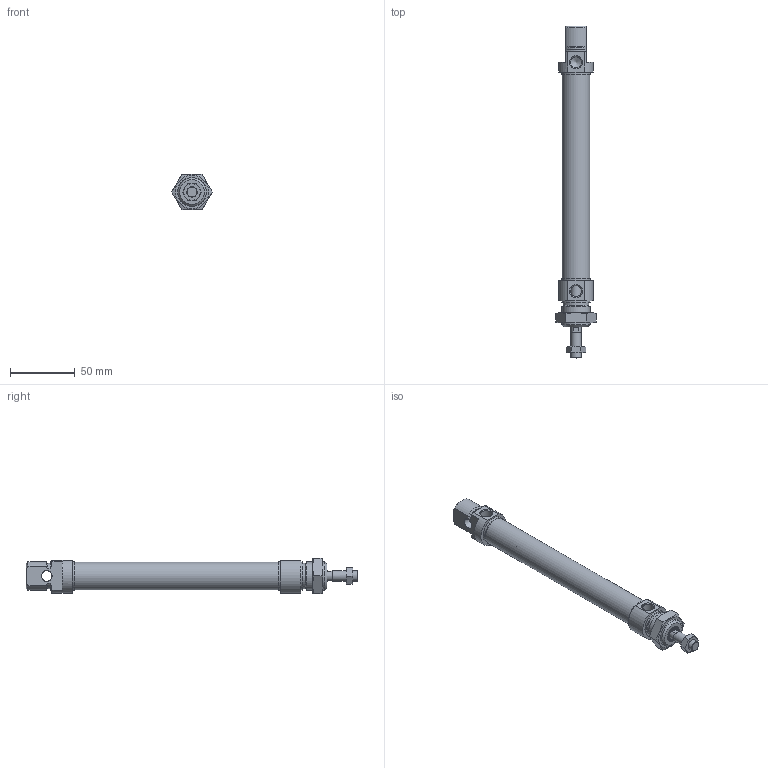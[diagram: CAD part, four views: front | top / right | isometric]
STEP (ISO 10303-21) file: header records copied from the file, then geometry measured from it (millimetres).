
FILE_DESCRIPTION(/* description */ ('Unknown'),/* implementation_level */ '2;1');
FILE_NAME(/* name */ 'RIM 20_125',/* time_stamp */ '2024-08-27T08:46:45+02:00',/* author */ ('Unknown'),/* organization */ ('Unknown'),/* preprocessor_version */ 'ST-DEVELOPER v16.7',/* originating_system */ 'Solid Edge',/* authorisation */ 'Unknown');
FILE_SCHEMA (('AUTOMOTIVE_DESIGN {1 0 10303 214 3 1 1}'));
Length unit declared in the file: millimetre
Products named in the file (7): RIM 20_125; Kit_2; Profilrohr; Kolbenstange; Kit_1; Mutter_1; Mutter_2
Assembly tree (6 placements, depth 2):
  RIM 20_125
    Kit_2
    Profilrohr
    Kolbenstange
    Kit_1
    Mutter_1
    Mutter_2
Bounding box: 31.18 x 256 x 27 mm (x, y, z)
Volume: 57246.4 mm3; surface area: 39645.5 mm2
Topology: 6 solids, 6 shells, 136 faces, 290 edges, 182 vertices
Faces by surface type: plane 55, cone 42, cylinder 32, torus 7
Full cylindrical faces by diameter (mm): 6.647 x1, 8 x3, 8.5 x1, 8.56 x2, 8.566 x2, 9.1 x1, 12 x1, 12.1 x1, 14.1 x1, 14.2 x1, 19.7 x1, 20 x2, 20.376 x1, 21.27 x1, 22 x2, 22.2 x2
Entity records: 4346 total; most frequent: CARTESIAN_POINT 664, DIRECTION 578, ORIENTED_EDGE 448, AXIS2_PLACEMENT_3D 259, EDGE_CURVE 224, FACE_BOUND 215, EDGE_LOOP 214, VERTEX_POINT 171
